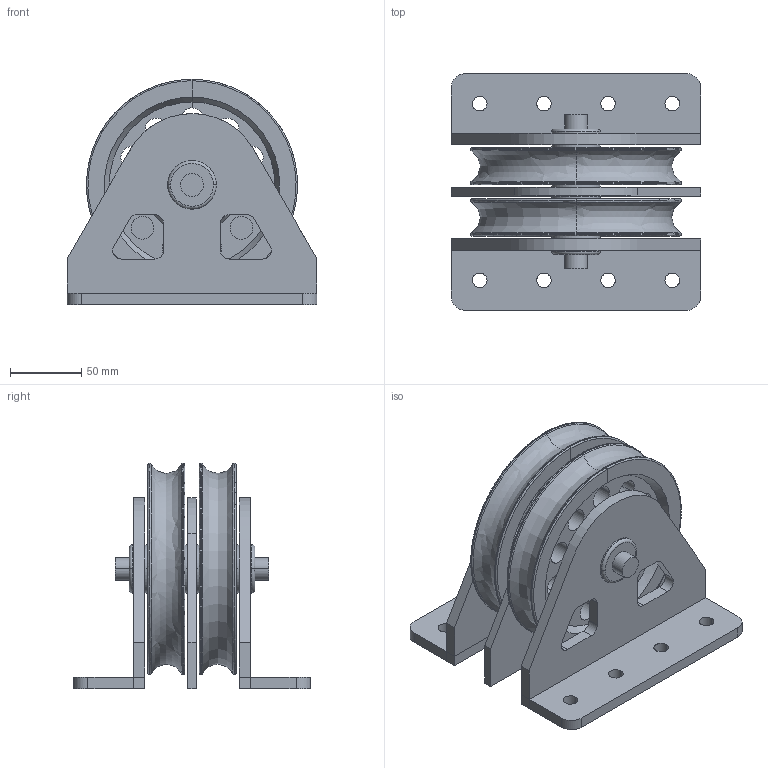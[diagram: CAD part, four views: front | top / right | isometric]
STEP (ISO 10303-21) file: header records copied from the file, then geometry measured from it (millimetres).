
FILE_DESCRIPTION(/* description */ (''),/* implementation_level */ '2;1');
FILE_NAME(/* name */ 'POULIE DOUBLE FIXE D 150',/* time_stamp */ '2005-05-31T08:53:45+02:00',/* author */ (''),/* organization */ (''),/* preprocessor_version */ 'ST-DEVELOPER v8',/* originating_system */ '',/* authorisation */ '');
FILE_SCHEMA (('CONFIG_CONTROL_DESIGN'));
Length unit declared in the file: millimetre
Products named in the file (1): 1
Bounding box: 175 x 166 x 158 mm (x, y, z)
Volume: 1019188.5 mm3; surface area: 296748.6 mm2
Topology: 22 solids, 22 shells, 416 faces, 938 edges, 552 vertices
Faces by surface type: bspline 416
Entity records: 14234 total; most frequent: CARTESIAN_POINT 8777, ORIENTED_EDGE 1876, EDGE_CURVE 938, VERTEX_POINT 560, EDGE_LOOP 504, B_SPLINE_CURVE_WITH_KNOTS 448, ADVANCED_FACE 416, FACE_OUTER_BOUND 416
